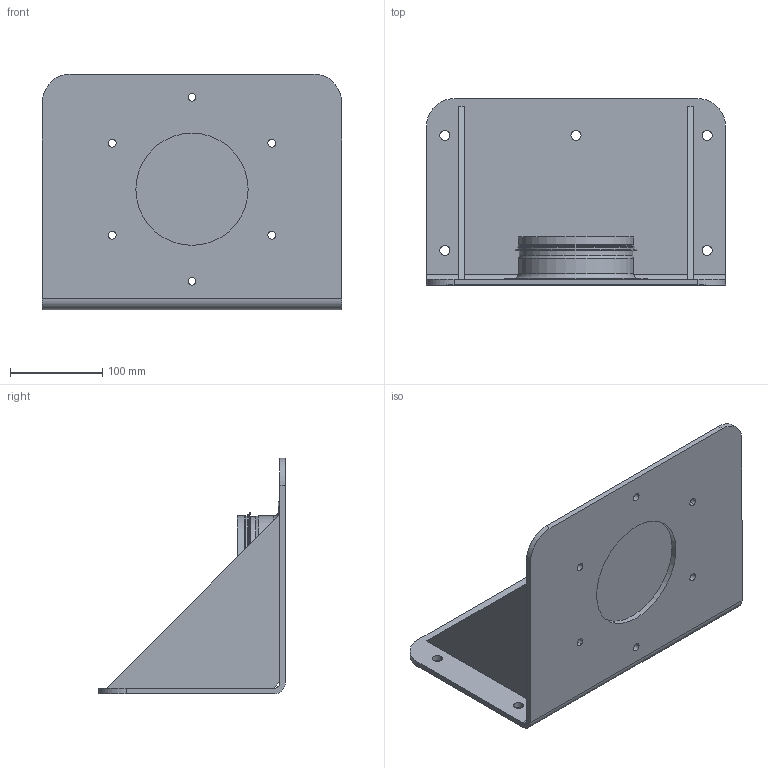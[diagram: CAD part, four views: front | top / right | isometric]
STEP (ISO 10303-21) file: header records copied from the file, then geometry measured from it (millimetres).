
FILE_DESCRIPTION((''),'2;1');
FILE_NAME('100301_LIGHT','2018-10-24T',('Tomas Bellgran'),(''),'CREO PARAMETRIC BY PTC INC, 2016130','CREO PARAMETRIC BY PTC INC, 2016130','');
FILE_SCHEMA(('AUTOMOTIVE_DESIGN { 1 0 10303 214 1 1 1 1 }'));
Length unit declared in the file: millimetre
Products named in the file (1): 100301_LIGHT
Bounding box: 325 x 203 x 256 mm (x, y, z)
Volume: 1590799.9 mm3; surface area: 394054.4 mm2
Topology: 1 solids, 1 shells, 77 faces, 192 edges, 126 vertices
Faces by surface type: cylinder 48, plane 25, torus 2, cone 2
Entity records: 2529 total; most frequent: DIRECTION 446, CARTESIAN_POINT 397, ORIENTED_EDGE 384, EDGE_CURVE 192, AXIS2_PLACEMENT_3D 177, VERTEX_POINT 126, EDGE_LOOP 112, CIRCLE 100
